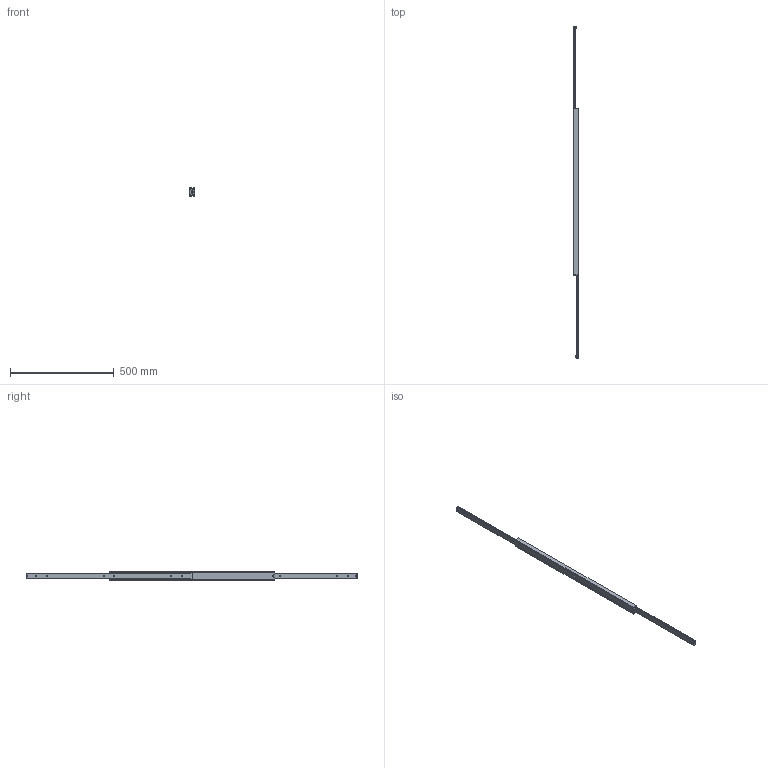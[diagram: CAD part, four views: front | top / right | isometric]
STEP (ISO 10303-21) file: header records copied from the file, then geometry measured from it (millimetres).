
FILE_DESCRIPTION(/* description */ (''),/* implementation_level */ '2;1');
FILE_NAME(/* name */ 'D:\Zeichnungen Schienen Komplett\MX-DTP40\MX-DTP40.080\MX-DTP40.080_ausgefahren.step',/* time_stamp */ '2021-12-02T12:48:53+01:00',/* author */ ('zmile'),/* organization */ (''),/* preprocessor_version */ 'ST-DEVELOPER v16.13',/* originating_system */ 'AutoCAD Mechanical',/* authorisation */ '');
FILE_SCHEMA (('AUTOMOTIVE_DESIGN { 1 0 10303 214 3 1 1 }'));
Length unit declared in the file: millimetre
Products named in the file (1): Product
Bounding box: 24 x 1600 x 40 mm (x, y, z)
Volume: 604516.8 mm3; surface area: 300666.8 mm2
Topology: 89 solids, 89 shells, 496 faces, 1266 edges, 840 vertices
Faces by surface type: plane 344, cylinder 82, sphere 56, bspline 8, torus 6
Full cylindrical faces by diameter (mm): 6 x68, 10 x2
Entity records: 19771 total; most frequent: CARTESIAN_POINT 8089, DIRECTION 2272, ORIENTED_EDGE 2152, EDGE_CURVE 1076, VERTEX_POINT 838, LINE 834, VECTOR 834, AXIS2_PLACEMENT_3D 719
